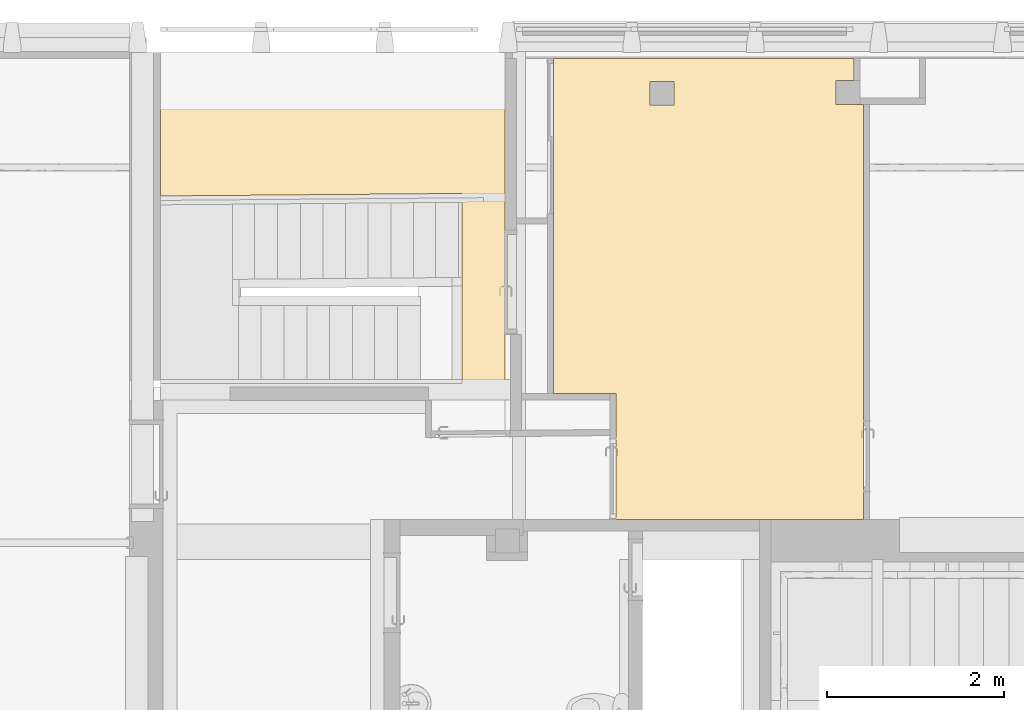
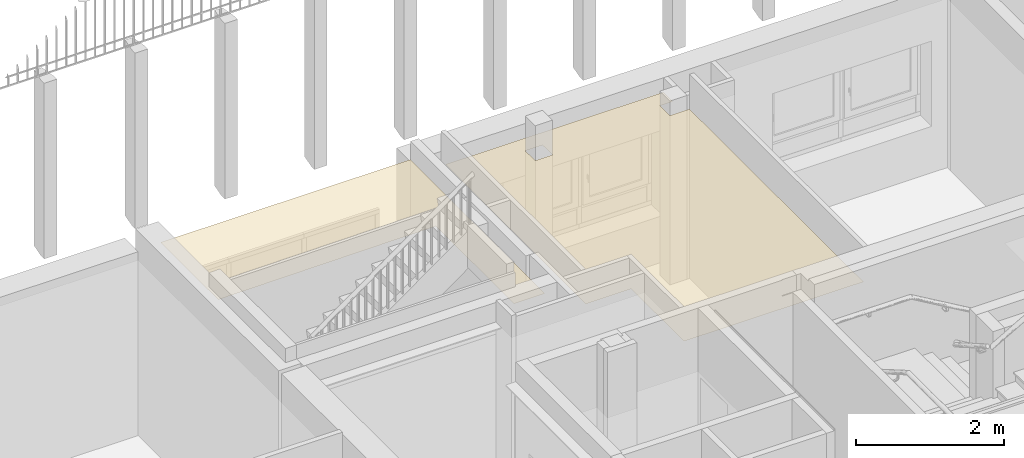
# One storey, part 56 of 65: 2 coverings.
"""IFC4 building model written with IfcOpenShell, lengths in metres."""

from ifc_helpers import new_model, entity, si_unit, converted_unit, derived_unit, direction, frame, origin, place, context, subcontext, project, spatial, polygons, material, layer, layer_set, type_object, element, save


model = new_model("IFC4")

# Units and contexts
model_context = context("Model", 3, precision=1e-05, world=origin(), true_north=direction((6.12303176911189e-17, 1.0)))
body_context = subcontext(model_context, "Body", "Model", "MODEL_VIEW")
ifc_project = project(units=[si_unit("LENGTHUNIT", "METRE"), si_unit("AREAUNIT", "SQUARE_METRE"), si_unit("VOLUMEUNIT", "CUBIC_METRE"), converted_unit("PLANEANGLEUNIT", "DEGREE", entity("IfcRatioMeasure", 0.0174532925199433), si_unit("PLANEANGLEUNIT", "RADIAN"), dimensions=[0, 0, 0, 0, 0, 0, 0]), si_unit("MASSUNIT", "GRAM", prefix="KILO"), derived_unit("MASSDENSITYUNIT", [(si_unit("MASSUNIT", "GRAM", prefix="KILO"), 1), (si_unit("LENGTHUNIT", "METRE"), -3)]), derived_unit("MOMENTOFINERTIAUNIT", [(si_unit("LENGTHUNIT", "METRE"), 4)]), si_unit("TIMEUNIT", "SECOND"), si_unit("FREQUENCYUNIT", "HERTZ"), si_unit("THERMODYNAMICTEMPERATUREUNIT", "DEGREE_CELSIUS"), derived_unit("THERMALTRANSMITTANCEUNIT", [(si_unit("MASSUNIT", "GRAM", prefix="KILO"), 1), (si_unit("THERMODYNAMICTEMPERATUREUNIT", "KELVIN"), -1), (si_unit("TIMEUNIT", "SECOND"), -3)]), derived_unit("VOLUMETRICFLOWRATEUNIT", [(si_unit("LENGTHUNIT", "METRE"), 3), (si_unit("TIMEUNIT", "SECOND"), -1)]), si_unit("ELECTRICCURRENTUNIT", "AMPERE"), si_unit("ELECTRICVOLTAGEUNIT", "VOLT"), si_unit("POWERUNIT", "WATT"), si_unit("FORCEUNIT", "NEWTON", prefix="KILO"), si_unit("ILLUMINANCEUNIT", "LUX"), si_unit("LUMINOUSFLUXUNIT", "LUMEN"), si_unit("LUMINOUSINTENSITYUNIT", "CANDELA"), derived_unit("USERDEFINED", [(si_unit("MASSUNIT", "GRAM", prefix="KILO"), -1), (si_unit("LENGTHUNIT", "METRE"), -2), (si_unit("TIMEUNIT", "SECOND"), 3), (si_unit("LUMINOUSFLUXUNIT", "LUMEN"), 1)]), derived_unit("LINEARVELOCITYUNIT", [(si_unit("LENGTHUNIT", "METRE"), 1), (si_unit("TIMEUNIT", "SECOND"), -1)]), si_unit("PRESSUREUNIT", "PASCAL"), derived_unit("USERDEFINED", [(si_unit("LENGTHUNIT", "METRE"), -2), (si_unit("MASSUNIT", "GRAM", prefix="KILO"), 1), (si_unit("TIMEUNIT", "SECOND"), -2)]), derived_unit("LINEARFORCEUNIT", [(si_unit("MASSUNIT", "GRAM", prefix="KILO"), 1), (si_unit("LENGTHUNIT", "METRE"), 1), (si_unit("TIMEUNIT", "SECOND"), -2), (si_unit("LENGTHUNIT", "METRE"), -1)]), derived_unit("PLANARFORCEUNIT", [(si_unit("MASSUNIT", "GRAM", prefix="KILO"), 1), (si_unit("LENGTHUNIT", "METRE"), 1), (si_unit("TIMEUNIT", "SECOND"), -2), (si_unit("LENGTHUNIT", "METRE"), -2)])], contexts=[model_context])

# Site, building, storey
site_placement = place(None, origin())
site = spatial("IfcSite", under=ifc_project, at=site_placement, Name="Default", CompositionType="ELEMENT")
building_placement = place(site_placement, origin())
building = spatial("IfcBuilding", under=site, at=building_placement, Name="HOTEL CONSULAIRE BOULOGNE SUR MER", CompositionType="ELEMENT")
storey_placement = place(building_placement, origin())
storey = spatial("IfcBuildingStorey", under=building, at=storey_placement, Name="Niveau 0", CompositionType="ELEMENT", Elevation=1.31981936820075e-13)

# Coverings
ifc_material = material(Name="Faux-plafond - Trame 600 x 600", Category="Divers")
ifc_layer = layer(ifc_material, 0.0, Name="Faux-plafond - Trame 600 x 600", Category="Divers")
ifc_layer_set = layer_set([ifc_layer], Name="Plafond de base:Plafond 600 mm x 1200 mm")
covering_type_1 = type_object("IfcCoveringType", Name="Plafond de base:Plafond 600 mm x 1200 mm", PredefinedType="CEILING")
covering_1_placement = place(storey_placement, frame((-5.15977317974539, -13.7937034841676, 3.0819251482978)))
element("IfcCovering", 1, at=covering_1_placement, inside=storey, type_object=covering_type_1, material=ifc_layer_set, Name="Plafond de base:Plafond 600 mm x 1200 mm", ObjectType="Plafond de base:Plafond 600 mm x 1200 mm", PredefinedType="CEILING", context=body_context, shape_type="Tessellation", body=[
    polygons([(0.0, 2.08418938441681, 1.27852954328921e-16), (3.41697356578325, 2.11300901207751, 1.27852954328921e-16), (3.41697356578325, 0.0, 1.27852954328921e-16), (3.90034967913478, 0.0, 1.27852954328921e-16), (3.90034967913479, 3.64337931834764, 1.27852954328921e-16), (4.33146851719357e-15, 3.64337931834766, 1.27852954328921e-16)], [[[6, 1, 2, 3, 4, 5]]], closed=True),
])
covering_type_2 = type_object("IfcCoveringType", Name="Plafond de base:Plafond 600 mm x 1200 mm", PredefinedType="CEILING")
covering_2_placement = place(storey_placement, frame((-0.70881570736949, -15.3752420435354, 2.8106)))
element("IfcCovering", 2, at=covering_2_placement, inside=storey, type_object=covering_type_2, material=ifc_layer_set, Name="Plafond de base:Plafond 600 mm x 1200 mm", ObjectType="Plafond de base:Plafond 600 mm x 1200 mm", PredefinedType="CEILING", context=body_context, shape_type="Tessellation", body=[
    polygons([(0.708191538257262, 4.33146851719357e-15, 1.27852954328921e-16), (3.51116684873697, -2.16573425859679e-15, 1.27852954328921e-16), (3.51116684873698, 4.70432333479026, 1.27852954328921e-16), (3.20193340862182, 4.70432333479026, 1.27852954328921e-16), (3.20193340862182, 4.97432333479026, 1.27852954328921e-16), (3.40316684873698, 4.97432333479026, 1.27852954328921e-16), (3.40316684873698, 5.22491787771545, 1.27852954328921e-16), (5.82041081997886e-15, 5.22491787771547, 1.27852954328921e-16), (-1.35358391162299e-16, 1.42739473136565, 1.27852954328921e-16), (0.708191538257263, 1.42739473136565, 1.27852954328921e-16), (1.3653159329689, 4.69430730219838, 1.27852954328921e-16), (1.0953159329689, 4.69430730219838, 1.27852954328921e-16), (1.0953159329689, 4.96430730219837, 1.27852954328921e-16), (1.3653159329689, 4.96430730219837, 1.27852954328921e-16)], [[[10, 1, 2, 3, 4, 5, 6, 7, 8, 9], [11, 12, 13, 14]]], closed=True),
])

save(model, "model.ifc")
